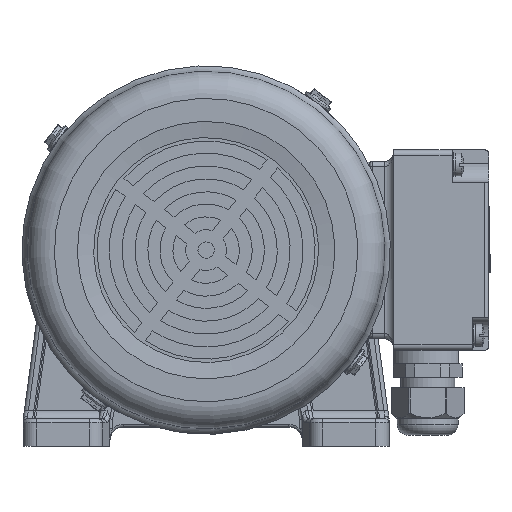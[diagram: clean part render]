
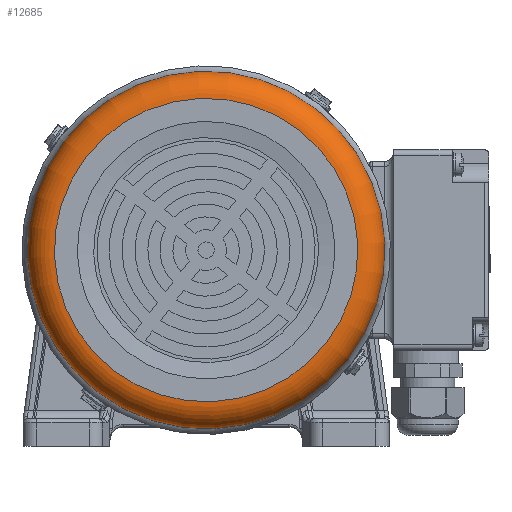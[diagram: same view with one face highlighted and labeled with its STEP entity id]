
A CAD part, left-side view. The second image highlights one B-rep face of the part: STEP entity #12685.
In plain terms, the highlighted toroidal (fillet/blend) face has major radius 56 mm and minor radius 10 mm.
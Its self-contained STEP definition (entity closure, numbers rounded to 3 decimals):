
#1826=TOROIDAL_SURFACE('',#44812,56.,10.);
#12685=ADVANCED_FACE('',(#14425,#14426),#1826,.T.);
#14425=FACE_BOUND('',#16067,.T.);
#14426=FACE_BOUND('',#16068,.T.);
#16067=EDGE_LOOP('',(#23300));
#16068=EDGE_LOOP('',(#23301));
#23300=ORIENTED_EDGE('',*,*,#36661,.F.);
#23301=ORIENTED_EDGE('',*,*,#36659,.T.);
#31760=VERTEX_POINT('',#70696);
#31762=VERTEX_POINT('',#70701);
#36659=EDGE_CURVE('',#31760,#31760,#41176,.T.);
#36661=EDGE_CURVE('',#31762,#31762,#41178,.T.);
#41176=CIRCLE('',#44808,66.);
#41178=CIRCLE('',#44811,56.);
#44808=AXIS2_PLACEMENT_3D('',#70695,#53588,#53589);
#44811=AXIS2_PLACEMENT_3D('',#70700,#53594,#53595);
#44812=AXIS2_PLACEMENT_3D('',#70702,#53596,#53597);
#53588=DIRECTION('',(-1.,0.,0.));
#53589=DIRECTION('',(0.,-0.609,0.793));
#53594=DIRECTION('',(-1.,0.,0.));
#53595=DIRECTION('',(0.,-0.609,0.793));
#53596=DIRECTION('',(-1.,0.,0.));
#53597=DIRECTION('',(0.,-0.609,0.793));
#70695=CARTESIAN_POINT('',(-18.,0.,0.));
#70696=CARTESIAN_POINT('',(-18.,-40.178,52.361));
#70700=CARTESIAN_POINT('',(-28.,0.,0.));
#70701=CARTESIAN_POINT('',(-28.,-34.091,44.428));
#70702=CARTESIAN_POINT('',(-18.,0.,0.));
